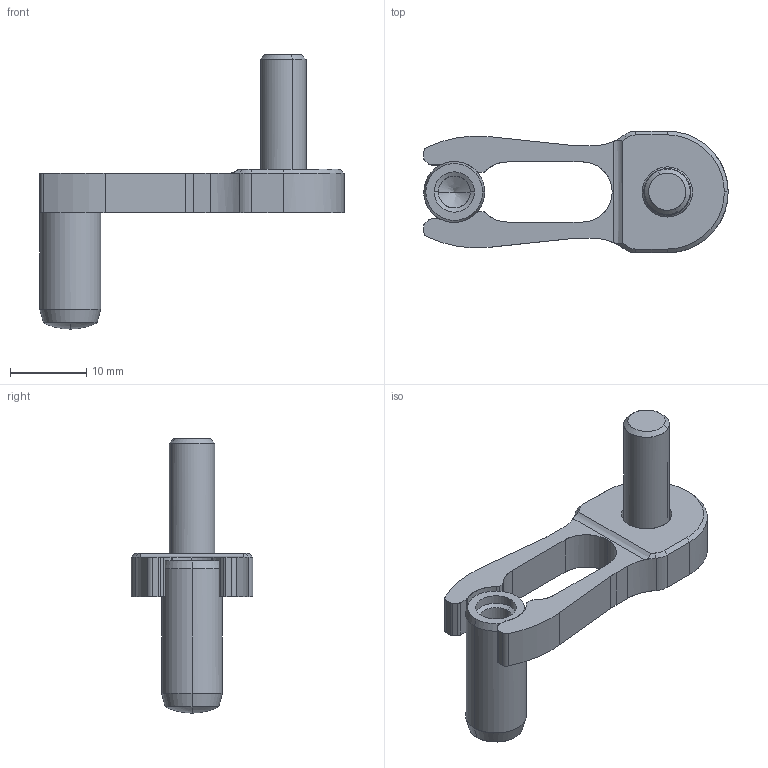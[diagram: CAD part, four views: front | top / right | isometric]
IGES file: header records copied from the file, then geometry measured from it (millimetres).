
Start section: START RECORD GO HERE.
Global section: file name: rc164008.igs; native system: DASSAULT SYSTEMES CATIA V5 R20 - www.3ds.com; preprocessor: CATIA Version 5 Release 20 ; author: Utente; organization: NB04-ASUS; date: 20201103.214429; units: millimetre
Bounding box: 40 x 16 x 36.05 mm (x, y, z)
Surface area: 2883.6 mm2 (no closed solid volume)
Topology: 0 solids, 0 shells, 107 faces, 520 edges, 514 vertices
Faces by surface type: revolution 71, plane 36
